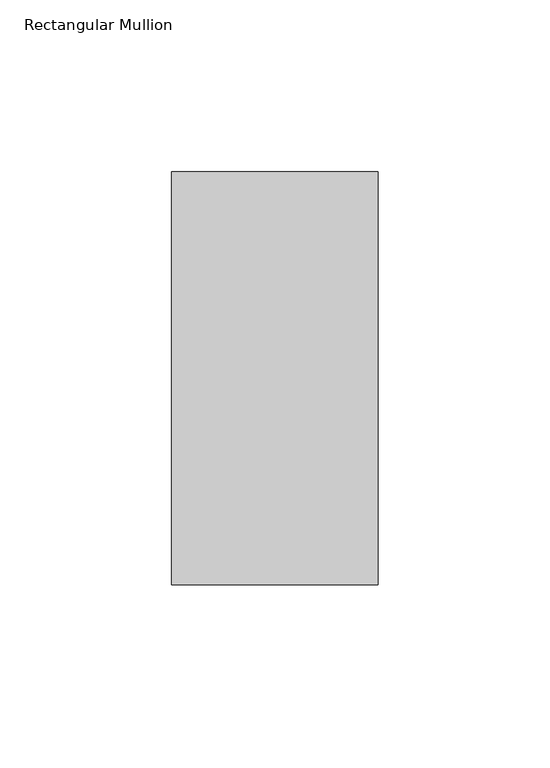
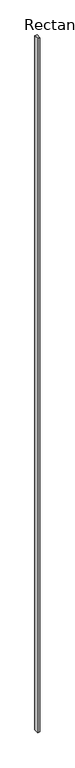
"""IFC4 building model written with IfcOpenShell, lengths in millimetres: member geometry, Rectangular Mullion : Terça."""

from ifc_helpers import new_model, si_unit, frame, origin, place, context, project, spatial, polyline, outline, extrude, source, transform, mapped, element, save


def rectangular_mullion_022dada1(model_context):
    return source(origin(), model_context, "Body", "SweptSolid", [
        extrude(outline(polyline([(-60.0, -120.0), (-60.0, 0.0), (0.0, 0.0), (0.0, -120.0), (-60.0, -120.0)])), frame((0.0, 0.0, -19200.0), z_axis=(0.0, 0.0, 1.0), x_axis=(1.0, 0.0, 0.0)), (0.0, 0.0, 1.0), 19200.0),
    ])


if __name__ == "__main__":
    model = new_model("IFC4")
    model_context = context("Model", 3, world=origin())
    ifc_project = project(units=[si_unit("LENGTHUNIT", "METRE", prefix="MILLI")], contexts=[model_context])
    site = spatial("IfcSite", under=ifc_project)
    building = spatial("IfcBuilding", under=site)
    placement = place(None, origin())
    rectangular_mullion_shape = rectangular_mullion_022dada1(model_context)
    element("IfcMember", 1, ObjectType="Rectangular Mullion : Terça", at=placement, inside=building, context=model_context, shape_type="MappedRepresentation", body=[
        mapped(rectangular_mullion_shape, transform((0.0, 0.0, 0.0), x_axis=(1.0, 0.0, 0.0), y_axis=(0.0, 1.0, 0.0), z_axis=(0.0, 0.0, 1.0))),
    ])
    save(model, "model.ifc")
